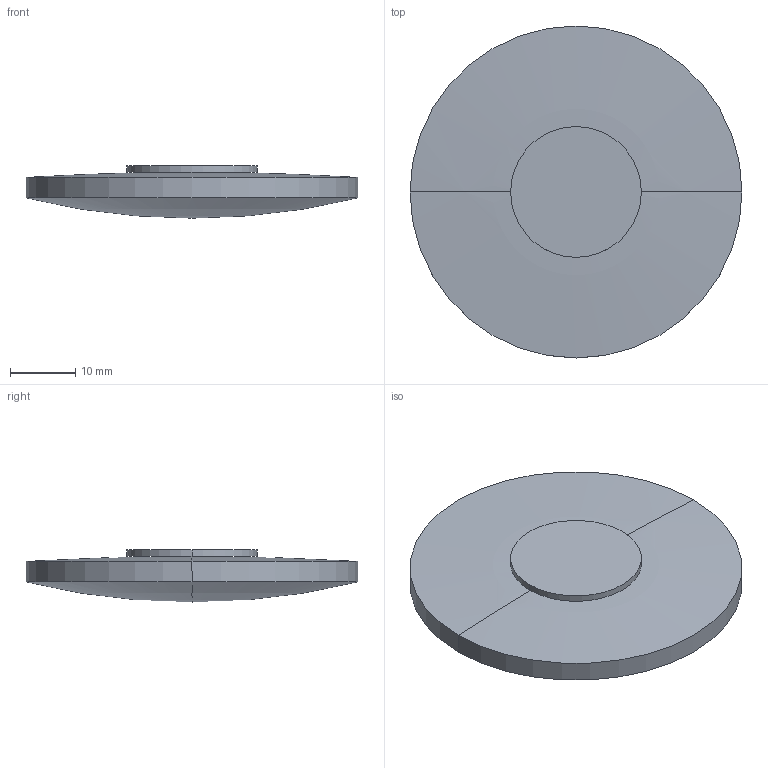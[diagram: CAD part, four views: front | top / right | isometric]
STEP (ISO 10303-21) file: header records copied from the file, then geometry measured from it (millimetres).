
FILE_DESCRIPTION(('STEP AP214'),'1');
FILE_NAME('LLQ-51190.STEP','2020-03-09T17:41:51',(' '),(' '),'Spatial InterOp 3D',' ',' ');
FILE_SCHEMA(('AUTOMOTIVE_DESIGN { 1 0 10303 214 1 1 1 1 }'));
Length unit declared in the file: millimetre
Products named in the file (1): 1
Bounding box: 50.8 x 50.8 x 8 mm (x, y, z)
Volume: 10616.4 mm3; surface area: 5279.4 mm2
Topology: 2 solids, 2 shells, 10 faces, 20 edges, 10 vertices
Faces by surface type: sphere 4, cylinder 4, plane 2
Entity records: 255 total; most frequent: DIRECTION 52, CARTESIAN_POINT 38, ORIENTED_EDGE 32, AXIS2_PLACEMENT_3D 24, EDGE_CURVE 16, CIRCLE 12, ADVANCED_FACE 10, FACE_OUTER_BOUND 10
